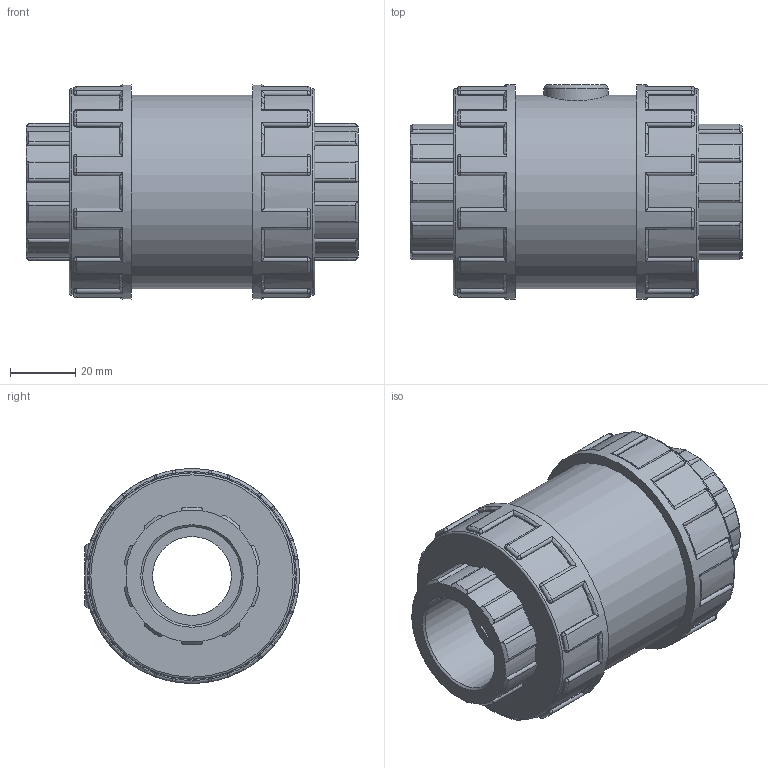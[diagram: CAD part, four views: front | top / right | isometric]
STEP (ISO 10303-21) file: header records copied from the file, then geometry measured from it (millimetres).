
FILE_DESCRIPTION(/* description */ ('PLASSON FOOT VALVE THR PVC 1"'),/* implementation_level */ '2;1');
FILE_NAME(/* name */ 'C:\Dropbox\KIMPROJECTS-Inventor\99-16-3568-Processing\PVC Catalog 2017\116410 - 116010\116410010.ipt.stp',/* time_stamp */ '2017-12-07T16:14:28+02:00',/* author */ ('KIM'),/* organization */ (''),/* preprocessor_version */ 'ST-DEVELOPER v15.6',/* originating_system */ 'Autodesk Inventor 2015',/* authorisation */ '');
FILE_SCHEMA (('AUTOMOTIVE_DESIGN { 1 0 10303 214 3 1 1 }'));
Length unit declared in the file: millimetre
Products named in the file (1): 116410010
Bounding box: 102 x 66 x 66 mm (x, y, z)
Volume: 208262.3 mm3; surface area: 34596.7 mm2
Topology: 1 solids, 1 shells, 411 faces, 1021 edges, 618 vertices
Faces by surface type: cylinder 185, plane 105, torus 51, sphere 48, cone 22
Full cylindrical faces by diameter (mm): 19.8 x1, 24.233 x1, 30.291 x2, 59.4 x1, 63.36 x2, 66 x2
Entity records: 13378 total; most frequent: CARTESIAN_POINT 3599, DIRECTION 2180, ORIENTED_EDGE 1998, EDGE_CURVE 999, AXIS2_PLACEMENT_3D 906, VERTEX_POINT 611, CIRCLE 494, EDGE_LOOP 434
